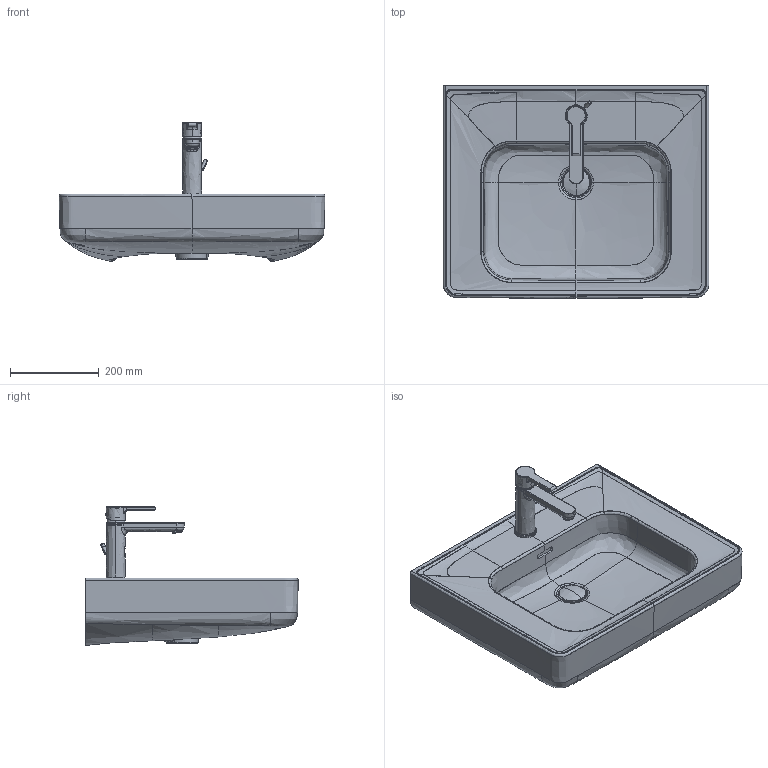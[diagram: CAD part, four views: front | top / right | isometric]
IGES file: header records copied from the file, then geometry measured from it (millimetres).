
Global section: file name: D:\01_Planungsdaten\Keramik\Soleil_by_Starck\237660\3D\237660.igs; native system: Rhinoceros ( Sep 13 2016 ); preprocessor: Trout Lake IGES 012 Sep 13 2016; date: 220719.085518; units: millimetre
Bounding box: 599.86 x 479.93 x 312.98 mm (x, y, z)
Surface area: 1083506.1 mm2 (no closed solid volume)
Topology: 0 solids, 0 shells, 727 faces, 7398 edges, 7385 vertices
Faces by surface type: bspline 727
